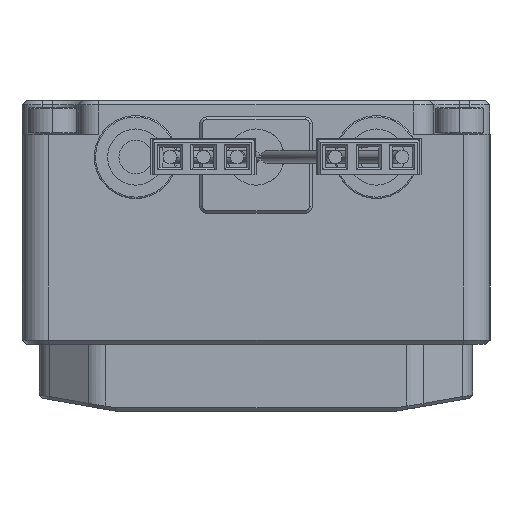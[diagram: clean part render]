
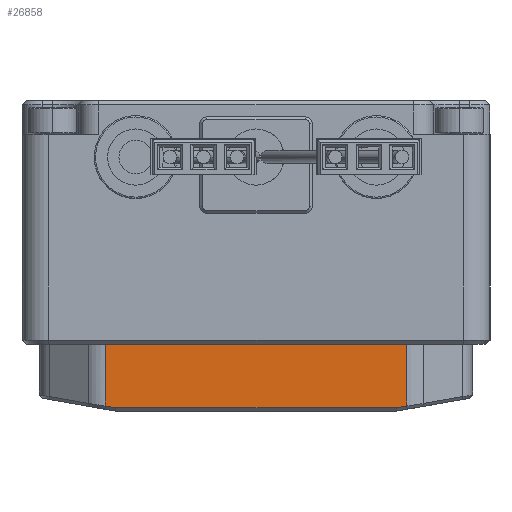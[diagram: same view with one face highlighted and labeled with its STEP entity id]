
A CAD part, left-side view. The second image highlights one B-rep face of the part: STEP entity #26858.
In plain terms, the highlighted planar face has unit normal (-1, 0, 0).
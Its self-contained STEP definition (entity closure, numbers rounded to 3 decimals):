
#1211=DIRECTION('',(0.,1.,0.));
#1212=VECTOR('',#1211,22.552);
#1213=CARTESIAN_POINT('',(-83.7,-11.276,-8.55));
#1214=LINE('',#1213,#1212);
#4317=CARTESIAN_POINT('',(-83.7,11.276,-13.172));
#4458=DIRECTION('',(0.,1.,0.));
#4459=VECTOR('',#4458,20.959);
#4460=CARTESIAN_POINT('',(-83.7,-10.479,-13.312));
#4461=LINE('',#4460,#4459);
#4462=DIRECTION('',(0.,-0.985,-0.173));
#4463=VECTOR('',#4462,0.809);
#4464=CARTESIAN_POINT('',(-83.7,11.276,-13.172));
#4465=LINE('',#4464,#4463);
#4466=DIRECTION('',(0.,0.,-1.));
#4467=VECTOR('',#4466,4.622);
#4468=CARTESIAN_POINT('',(-83.7,11.276,-8.55));
#4469=LINE('',#4468,#4467);
#4470=DIRECTION('',(0.,0.,1.));
#4471=VECTOR('',#4470,4.622);
#4472=CARTESIAN_POINT('',(-83.7,-11.276,-13.172));
#4473=LINE('',#4472,#4471);
#4474=DIRECTION('',(0.,-0.985,0.173));
#4475=VECTOR('',#4474,0.809);
#4476=CARTESIAN_POINT('',(-83.7,-10.479,-13.312));
#4477=LINE('',#4476,#4475);
#4478=CARTESIAN_POINT('',(-83.7,-11.276,-13.172));
#15398=CARTESIAN_POINT('',(-83.7,-11.276,-8.55));
#15399=CARTESIAN_POINT('',(-83.7,11.276,-8.55));
#15400=VERTEX_POINT('',#15398);
#15401=VERTEX_POINT('',#15399);
#15426=CARTESIAN_POINT('',(-83.7,-10.479,-13.312));
#15427=CARTESIAN_POINT('',(-83.7,10.479,-13.312));
#15428=VERTEX_POINT('',#15426);
#15429=VERTEX_POINT('',#15427);
#15448=VERTEX_POINT('',#4317);
#15480=VERTEX_POINT('',#4478);
#26843=CARTESIAN_POINT('',(-83.7,-16.2,-8.55));
#26844=DIRECTION('',(-1.,0.,0.));
#26845=DIRECTION('',(0.,1.,0.));
#26846=AXIS2_PLACEMENT_3D('',#26843,#26844,#26845);
#26847=PLANE('',#26846);
#26848=ORIENTED_EDGE('',*,*,#26824,.T.);
#26849=ORIENTED_EDGE('',*,*,#26715,.F.);
#26850=ORIENTED_EDGE('',*,*,#26646,.F.);
#26851=ORIENTED_EDGE('',*,*,#19644,.F.);
#26853=ORIENTED_EDGE('',*,*,#26852,.F.);
#26855=ORIENTED_EDGE('',*,*,#26854,.F.);
#26856=EDGE_LOOP('',(#26848,#26849,#26850,#26851,#26853,#26855));
#26857=FACE_OUTER_BOUND('',#26856,.F.);
#26858=ADVANCED_FACE('',(#26857),#26847,.T.);
#19644=EDGE_CURVE('',#15400,#15401,#1214,.T.);
#26646=EDGE_CURVE('',#15401,#15448,#4469,.T.);
#26715=EDGE_CURVE('',#15448,#15429,#4465,.T.);
#26824=EDGE_CURVE('',#15428,#15429,#4461,.T.);
#26852=EDGE_CURVE('',#15480,#15400,#4473,.T.);
#26854=EDGE_CURVE('',#15428,#15480,#4477,.T.);
